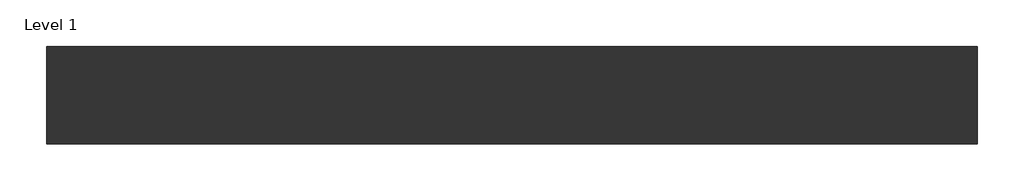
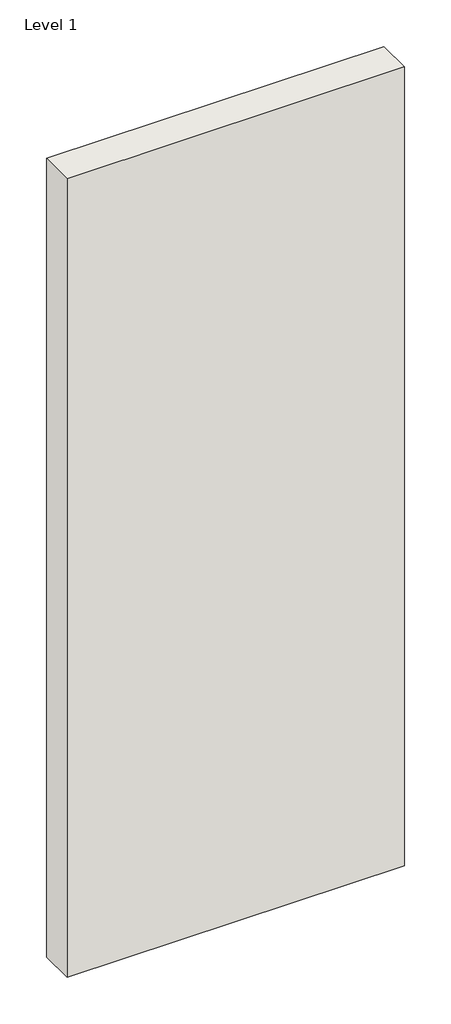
# One storey: 1 wall.
"""IFC4 building model written with IfcOpenShell, lengths in millimetres."""

import ifcopenshell
import ifcopenshell.guid

model = None  # the IFC model being written
_history = None  # IfcOwnerHistory: only IFC2X3 demands one
_inside = {}  # id of a spatial element -> (the spatial element, [elements in it])
_under = {}  # id of a project, library or spatial element -> (it, [spatial elements below it])
_declared = {}  # id of a project -> (the project, [libraries it declares])
_typed = {}  # id of a type object -> (the type object, [elements of that type])
_made_of = {}  # id of a material, layer set ... -> (it, [elements and type objects made of it])


def new_model(schema):
    """Start an empty IFC model of exactly this schema.

    Asked for "IFC4X3", IfcOpenShell would pick the latest addendum, in which some entities
    have other attributes; the version numbers below select the first issue.
    IFC2X3 requires an IfcOwnerHistory on every rooted entity: one is made here for all.
    """
    global model, _history
    if schema == "IFC4X3":
        model = ifcopenshell.file(schema_version=(4, 3, 0, 0))
    else:
        model = ifcopenshell.file(schema=schema)
    _inside.clear()
    _under.clear()
    _declared.clear()
    _typed.clear()
    _made_of.clear()
    _history = None
    if model.schema == "IFC2X3":
        org = make("IfcOrganization", Name="unknown")
        user = make(
            "IfcPersonAndOrganization",
            ThePerson=make("IfcPerson", FamilyName="unknown"),
            TheOrganization=org,
        )
        app = make(
            "IfcApplication",
            ApplicationDeveloper=org,
            Version="unknown",
            ApplicationFullName="unknown",
            ApplicationIdentifier="unknown",
        )
        _history = make(
            "IfcOwnerHistory",
            OwningUser=user,
            OwningApplication=app,
            ChangeAction="ADDED",
            CreationDate=0,
        )
    return model


def make(cls, **values):
    """One entity of the class cls with the attributes given. An attribute that is None is left unset."""
    return model.create_entity(
        cls, **{name: value for name, value in values.items() if value is not None}
    )


def rooted(cls, **values):
    """An entity with a GlobalId (a new one), such as an element, a storey or a relation."""
    return make(cls, GlobalId=ifcopenshell.guid.new(), OwnerHistory=_history, **values)


def si_unit(unit_type, name, prefix=None):
    """IfcSIUnit, for example si_unit("LENGTHUNIT", "METRE", prefix="MILLI")."""
    return make("IfcSIUnit", UnitType=unit_type, Prefix=prefix, Name=name)


def assignment(units):
    """IfcUnitAssignment: the units of a project."""
    return None if units is None else make("IfcUnitAssignment", Units=units)


def point(xyz):
    """IfcCartesianPoint."""
    return None if xyz is None else make("IfcCartesianPoint", Coordinates=xyz)


def direction(xyz):
    """IfcDirection."""
    return None if xyz is None else make("IfcDirection", DirectionRatios=xyz)


def frame(location, z_axis=None, x_axis=None):
    """IfcAxis2Placement3D, a coordinate frame: its origin and axes. An axis left out is left unset."""
    return make(
        "IfcAxis2Placement3D",
        Location=point(location),
        Axis=direction(z_axis),
        RefDirection=direction(x_axis),
    )


def origin():
    """The frame at (0, 0, 0) with its axes left unset."""
    return frame((0.0, 0.0, 0.0))


def origin_with_axes():
    """The frame at (0, 0, 0) with the z axis (0, 0, 1) and the x axis (1, 0, 0) written out."""
    return frame((0.0, 0.0, 0.0), z_axis=(0.0, 0.0, 1.0), x_axis=(1.0, 0.0, 0.0))


def place(relative_to, where):
    """IfcLocalPlacement: puts the frame where relative to a parent placement (None: the world)."""
    return make(
        "IfcLocalPlacement", PlacementRelTo=relative_to, RelativePlacement=where
    )


def context(
    kind, dimensions, precision=None, world=None, true_north=None, identifier=None
):
    """IfcGeometricRepresentationContext, for example the 3D "Model" context."""
    return make(
        "IfcGeometricRepresentationContext",
        ContextIdentifier=identifier,
        ContextType=kind,
        CoordinateSpaceDimension=dimensions,
        Precision=precision,
        WorldCoordinateSystem=world,
        TrueNorth=true_north,
    )


def project(units=None, contexts=None):
    """IfcProject with its units and contexts."""
    return rooted(
        "IfcProject",
        Name="project",
        RepresentationContexts=contexts,
        UnitsInContext=assignment(units),
    )


def spatial(cls, under=None, at=None, **own):
    """A site, building, storey or space (cls), placed at a placement, below another one or the project."""
    s = rooted(cls, ObjectPlacement=at, **own)
    if under is not None:
        _under.setdefault(under.id(), (under, []))[1].append(s)
    return s


def polyline(points):
    """IfcPolyline through the points."""
    return make("IfcPolyline", Points=[point(p) for p in points])


def outline(outer, holes=None, kind="AREA"):
    """IfcArbitraryClosedProfileDef: a profile drawn as a closed curve; with holes, ...WithVoids."""
    if holes is None:
        return make("IfcArbitraryClosedProfileDef", ProfileType=kind, OuterCurve=outer)
    return make(
        "IfcArbitraryProfileDefWithVoids",
        ProfileType=kind,
        OuterCurve=outer,
        InnerCurves=holes,
    )


def extrude(swept, where, along, depth):
    """IfcExtrudedAreaSolid: the profile swept, set in the frame where, extruded along a direction by depth."""
    return make(
        "IfcExtrudedAreaSolid",
        SweptArea=swept,
        Position=where,
        ExtrudedDirection=direction(along),
        Depth=depth,
    )


def shape(context_of_items, identifier, shape_type, items):
    """IfcShapeRepresentation: the items that make up one representation, for example the "Body"."""
    return make(
        "IfcShapeRepresentation",
        ContextOfItems=context_of_items,
        RepresentationIdentifier=identifier,
        RepresentationType=shape_type,
        Items=items,
    )


def made_of(thing, what):
    """Note that an element or type object is made of a material, layer set ...; save() writes the relation."""
    if what is not None:
        _made_of.setdefault(what.id(), (what, []))[1].append(thing)
    return thing


def element(
    cls,
    number,
    at=None,
    inside=None,
    cuts=None,
    type_object=None,
    material=None,
    context=None,
    identifier="Body",
    shape_type=None,
    held_by="IfcProductDefinitionShape",
    body=None,
    shapes=None,
    **own,
):
    """One element of the class cls, such as IfcWall. Its Tag is "e" and its number.

    at: its placement. inside: the storey or other place that contains it. cuts: it is an
    opening in that element (IfcRelVoidsElement). A single representation is given by context,
    identifier, shape_type and body (its items); several are given by shapes. held_by: the class
    of the entity that holds the representations. save() writes the other relations.
    """
    e = rooted(cls, Tag="e%d" % number, ObjectPlacement=at, **own)
    if body is not None:
        shapes = [shape(context, identifier, shape_type, body)]
    if shapes is not None:
        e.Representation = make(held_by, Representations=shapes)
    if inside is not None:
        _inside.setdefault(inside.id(), (inside, []))[1].append(e)
    if cuts is not None:
        rooted(
            "IfcRelVoidsElement", RelatingBuildingElement=cuts, RelatedOpeningElement=e
        )
    if type_object is not None:
        _typed.setdefault(type_object.id(), (type_object, []))[1].append(e)
    return made_of(e, material)


def aggregate(whole, parts):
    """IfcRelAggregates: a whole, such as a stair, and the parts it consists of."""
    return rooted("IfcRelAggregates", RelatingObject=whole, RelatedObjects=parts)


def save(model, path):
    """Write the relations noted so far, then the file.

    IfcRelAggregates (storeys below a building ...), IfcRelContainedInSpatialStructure (elements
    in a storey), IfcRelDefinesByType, IfcRelAssociatesMaterial and IfcRelDeclares: one each for
    every whole, place, type object, material and project.
    """
    for whole, parts in _under.values():
        aggregate(whole, parts)
    for where, things in _inside.values():
        rooted(
            "IfcRelContainedInSpatialStructure",
            RelatedElements=things,
            RelatingStructure=where,
        )
    for kind, things in _typed.values():
        rooted("IfcRelDefinesByType", RelatedObjects=things, RelatingType=kind)
    for what, things in _made_of.values():
        rooted("IfcRelAssociatesMaterial", RelatedObjects=things, RelatingMaterial=what)
    for by, libraries in _declared.values():
        rooted("IfcRelDeclares", RelatingContext=by, RelatedDefinitions=libraries)
    model.write(path)


model = new_model("IFC4")

# Units and contexts
model_context = context("Model", 3, world=origin())
ifc_project = project(units=[si_unit("LENGTHUNIT", "METRE", prefix="MILLI")], contexts=[model_context])

# Site, building, storey
site = spatial("IfcSite", under=ifc_project)
building = spatial("IfcBuilding", under=site)
storey = spatial("IfcBuildingStorey", under=building, Name="Level 1", Elevation=0.0)

# Wall
placement = place(None, origin())
element("IfcWall", 1, ObjectType="RIGIPS - 3.21.10_3.21.15 - EI 120, REI120 - 12dB", at=placement, inside=storey, context=model_context, shape_type="SweptSolid", body=[
    extrude(outline(polyline([(1000.0, -52.5), (0.0, -52.5), (0.0, 52.5), (1000.0, 52.5), (1000.0, -52.5)])), origin_with_axes(), (0.0, 0.0, 1.0), 2500.0),
])

save(model, "model.ifc")
